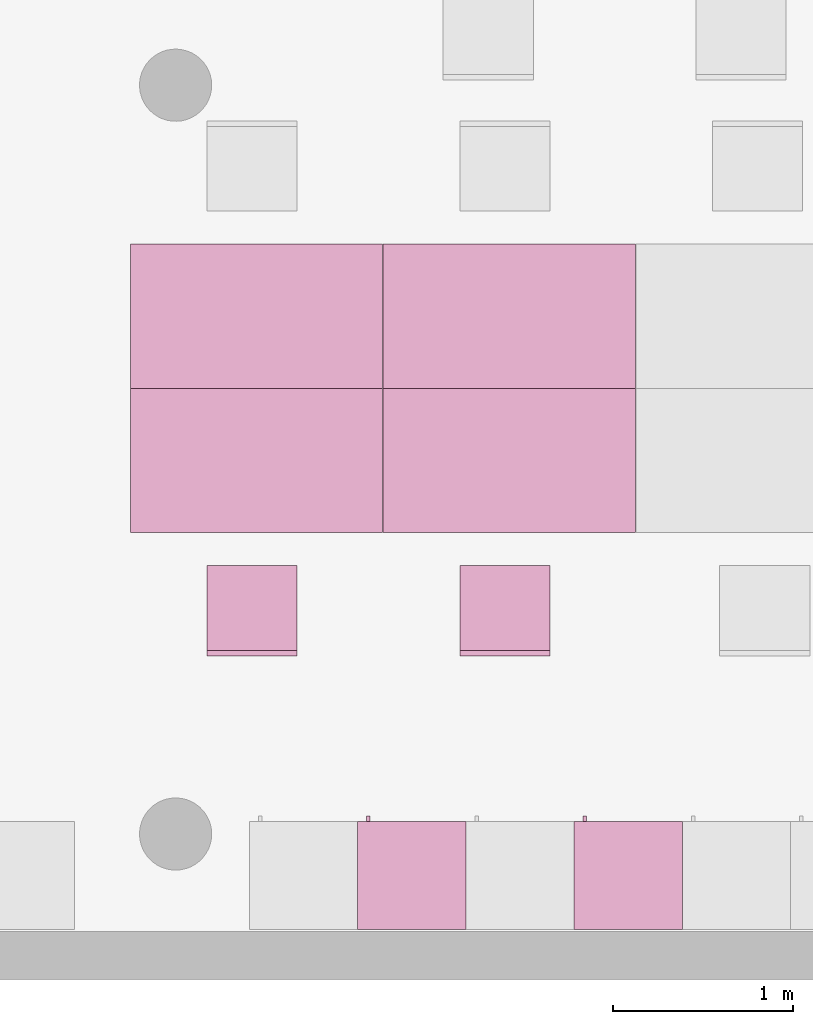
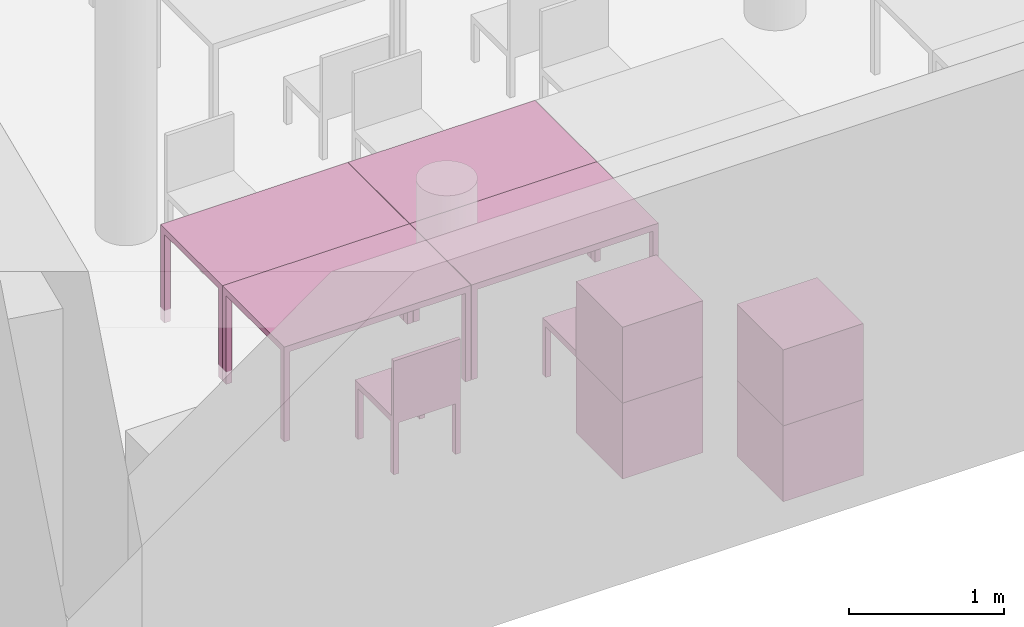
"""IFC4 building model written with IfcOpenShell, lengths in metres."""

from ifc_helpers import new_model, entity, si_unit, converted_unit, derived_unit, frame, origin, place, context, subcontext, project, spatial, faceted_brep, element, save


model = new_model("IFC4")

# Units and contexts
model_context = context("Model", 3, precision=1e-05, world=origin())
body_context = subcontext(model_context, "Body", "Model", "MODEL_VIEW")
ifc_project = project(units=[si_unit("LENGTHUNIT", "METRE"), si_unit("AREAUNIT", "SQUARE_METRE"), si_unit("VOLUMEUNIT", "CUBIC_METRE"), si_unit("MASSUNIT", "GRAM", prefix="KILO"), converted_unit("PLANEANGLEUNIT", "DEGREE", entity("IfcPlaneAngleMeasure", 0.0174532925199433), si_unit("PLANEANGLEUNIT", "RADIAN"), dimensions=[0, 0, 0, 0, 0, 0, 0]), derived_unit("THERMALTRANSMITTANCEUNIT", [(si_unit("POWERUNIT", "WATT"), 1), (si_unit("THERMODYNAMICTEMPERATUREUNIT", "KELVIN"), -1), (si_unit("LENGTHUNIT", "METRE"), -2)]), derived_unit("VOLUMETRICFLOWRATEUNIT", [(si_unit("LENGTHUNIT", "METRE"), 3), (converted_unit("TIMEUNIT", "hour", entity("IfcTimeMeasure", 3600.0), si_unit("TIMEUNIT", "SECOND"), dimensions=[0, 0, 1, 0, 0, 0, 0]), -1), (si_unit("LENGTHUNIT", "METRE"), -1)])], contexts=[model_context])

# Building, storeys
building_placement = place(None, origin())
building = spatial("IfcBuilding", under=ifc_project, at=building_placement, Name="HABITATGE PLURIFAMILIAR", CompositionType="ELEMENT")
storey_1_placement = place(building_placement, frame((0.0, 0.0, 15.28)))
storey_1 = spatial("IfcBuildingStorey", under=building, at=storey_1_placement, Name="PLANTA QUARTA", CompositionType="ELEMENT", Elevation=15.28)
storey_2_placement = place(storey_1_placement, frame((0.0, 0.0, 12.27)))
storey_2 = spatial("IfcBuildingStorey", under=storey_1, at=storey_2_placement, Name="NOU", CompositionType="PARTIAL")

# Furniture
furniture_1_placement = place(storey_2_placement, frame((400.736396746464, 15.3194598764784, -12.3699999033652)))
element("IfcFurniture", 1, at=furniture_1_placement, inside=storey_2, Name="Taula 140X80_P4", context=body_context, shape_type="Brep", body=[
    faceted_brep([(0.04375, 0.750069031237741, 0.0), (0.04375, 0.800069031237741, 0.0), (0.0, 0.800069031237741, 0.0), (0.0, 0.750069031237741, 0.0), (0.04375, 0.800069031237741, 0.7), (0.04375, 0.750069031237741, 0.7), (0.0, 0.750069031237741, 0.7), (0.0, 0.800069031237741, 0.7)], [[[0, 1, 2, 3]], [[4, 5, 6, 7]], [[1, 0, 5, 4]], [[2, 1, 4, 7]], [[3, 2, 7, 6]], [[0, 3, 6, 5]]], orient=[[False], [False], [False], [False], [False], [False]]),
    faceted_brep([(0.04375, 0.0, 0.0), (0.04375, 0.05, 0.0), (0.0, 0.05, 0.0), (0.0, 0.0, 0.0), (0.04375, 0.05, 0.7), (0.04375, 0.0, 0.7), (0.0, 0.0, 0.7), (0.0, 0.05, 0.7)], [[[0, 1, 2, 3]], [[4, 5, 6, 7]], [[1, 0, 5, 4]], [[2, 1, 4, 7]], [[3, 2, 7, 6]], [[0, 3, 6, 5]]], orient=[[False], [False], [False], [False], [False], [False]]),
    faceted_brep([(1.39732768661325, 0.0, 0.7), (1.39732768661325, 0.800069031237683, 0.7), (0.0, 0.800069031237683, 0.7), (0.0, 0.0, 0.7), (1.39732768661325, 0.800069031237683, 0.75), (1.39732768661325, 0.0, 0.75), (0.0, 0.0, 0.75), (0.0, 0.800069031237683, 0.75)], [[[0, 1, 2, 3]], [[4, 5, 6, 7]], [[1, 0, 5, 4]], [[2, 1, 4, 7]], [[3, 2, 7, 6]], [[0, 3, 6, 5]]], orient=[[False], [False], [False], [False], [False], [False]]),
    faceted_brep([(1.39732768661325, 0.750069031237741, 0.0), (1.39732768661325, 0.800069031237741, 0.0), (1.35357768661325, 0.800069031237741, 0.0), (1.35357768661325, 0.750069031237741, 0.0), (1.39732768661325, 0.800069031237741, 0.7), (1.39732768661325, 0.750069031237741, 0.7), (1.35357768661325, 0.750069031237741, 0.7), (1.35357768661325, 0.800069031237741, 0.7)], [[[0, 1, 2, 3]], [[4, 5, 6, 7]], [[1, 0, 5, 4]], [[2, 1, 4, 7]], [[3, 2, 7, 6]], [[0, 3, 6, 5]]], orient=[[False], [False], [False], [False], [False], [False]]),
    faceted_brep([(1.39732768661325, 0.0, 0.0), (1.39732768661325, 0.05, 0.0), (1.35357768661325, 0.05, 0.0), (1.35357768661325, 0.0, 0.0), (1.39732768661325, 0.05, 0.7), (1.39732768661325, 0.0, 0.7), (1.35357768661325, 0.0, 0.7), (1.35357768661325, 0.05, 0.7)], [[[0, 1, 2, 3]], [[4, 5, 6, 7]], [[1, 0, 5, 4]], [[2, 1, 4, 7]], [[3, 2, 7, 6]], [[0, 3, 6, 5]]], orient=[[False], [False], [False], [False], [False], [False]]),
])
furniture_2_placement = place(storey_2_placement, frame((402.1375758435, 15.3194598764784, -12.3699999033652)))
element("IfcFurniture", 2, at=furniture_2_placement, inside=storey_2, Name="Taula 140X80_P4", context=body_context, shape_type="Brep", body=[
    faceted_brep([(0.04375, 0.750069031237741, 0.0), (0.04375, 0.800069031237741, 0.0), (0.0, 0.800069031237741, 0.0), (0.0, 0.750069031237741, 0.0), (0.04375, 0.800069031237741, 0.7), (0.04375, 0.750069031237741, 0.7), (0.0, 0.750069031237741, 0.7), (0.0, 0.800069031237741, 0.7)], [[[0, 1, 2, 3]], [[4, 5, 6, 7]], [[1, 0, 5, 4]], [[2, 1, 4, 7]], [[3, 2, 7, 6]], [[0, 3, 6, 5]]], orient=[[False], [False], [False], [False], [False], [False]]),
    faceted_brep([(0.04375, 0.0, 0.0), (0.04375, 0.05, 0.0), (0.0, 0.05, 0.0), (0.0, 0.0, 0.0), (0.04375, 0.05, 0.7), (0.04375, 0.0, 0.7), (0.0, 0.0, 0.7), (0.0, 0.05, 0.7)], [[[0, 1, 2, 3]], [[4, 5, 6, 7]], [[1, 0, 5, 4]], [[2, 1, 4, 7]], [[3, 2, 7, 6]], [[0, 3, 6, 5]]], orient=[[False], [False], [False], [False], [False], [False]]),
    faceted_brep([(1.39732768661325, 0.0, 0.7), (1.39732768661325, 0.800069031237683, 0.7), (0.0, 0.800069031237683, 0.7), (0.0, 0.0, 0.7), (1.39732768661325, 0.800069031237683, 0.75), (1.39732768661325, 0.0, 0.75), (0.0, 0.0, 0.75), (0.0, 0.800069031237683, 0.75)], [[[0, 1, 2, 3]], [[4, 5, 6, 7]], [[1, 0, 5, 4]], [[2, 1, 4, 7]], [[3, 2, 7, 6]], [[0, 3, 6, 5]]], orient=[[False], [False], [False], [False], [False], [False]]),
    faceted_brep([(1.39732768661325, 0.750069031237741, 0.0), (1.39732768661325, 0.800069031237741, 0.0), (1.35357768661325, 0.800069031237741, 0.0), (1.35357768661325, 0.750069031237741, 0.0), (1.39732768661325, 0.800069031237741, 0.7), (1.39732768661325, 0.750069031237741, 0.7), (1.35357768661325, 0.750069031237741, 0.7), (1.35357768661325, 0.800069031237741, 0.7)], [[[0, 1, 2, 3]], [[4, 5, 6, 7]], [[1, 0, 5, 4]], [[2, 1, 4, 7]], [[3, 2, 7, 6]], [[0, 3, 6, 5]]], orient=[[False], [False], [False], [False], [False], [False]]),
    faceted_brep([(1.39732768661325, 0.0, 0.0), (1.39732768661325, 0.05, 0.0), (1.35357768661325, 0.05, 0.0), (1.35357768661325, 0.0, 0.0), (1.39732768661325, 0.05, 0.7), (1.39732768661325, 0.0, 0.7), (1.35357768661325, 0.0, 0.7), (1.35357768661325, 0.05, 0.7)], [[[0, 1, 2, 3]], [[4, 5, 6, 7]], [[1, 0, 5, 4]], [[2, 1, 4, 7]], [[3, 2, 7, 6]], [[0, 3, 6, 5]]], orient=[[False], [False], [False], [False], [False], [False]]),
])
furniture_3_placement = place(storey_2_placement, frame((402.1375758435, 16.1195289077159, -12.3699999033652)))
element("IfcFurniture", 3, at=furniture_3_placement, inside=storey_2, Name="Taula 140X80_P4", context=body_context, shape_type="Brep", body=[
    faceted_brep([(0.04375, 0.05, 0.0), (0.0, 0.05, 0.0), (0.0, 0.0, 0.0), (0.04375, 0.0, 0.0), (0.04375, 0.0, 0.7), (0.0, 0.0, 0.7), (0.0, 0.05, 0.7), (0.04375, 0.05, 0.7)], [[[0, 1, 2, 3]], [[4, 5, 6, 7]], [[3, 4, 7, 0]], [[2, 5, 4, 3]], [[1, 6, 5, 2]], [[0, 7, 6, 1]]], orient=[[False], [False], [False], [False], [False], [False]]),
    faceted_brep([(0.04375, 0.800069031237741, 0.0), (0.0, 0.800069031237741, 0.0), (0.0, 0.750069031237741, 0.0), (0.04375, 0.750069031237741, 0.0), (0.04375, 0.750069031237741, 0.7), (0.0, 0.750069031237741, 0.7), (0.0, 0.800069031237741, 0.7), (0.04375, 0.800069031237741, 0.7)], [[[0, 1, 2, 3]], [[4, 5, 6, 7]], [[3, 4, 7, 0]], [[2, 5, 4, 3]], [[1, 6, 5, 2]], [[0, 7, 6, 1]]], orient=[[False], [False], [False], [False], [False], [False]]),
    faceted_brep([(1.39732768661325, 0.800069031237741, 0.7), (0.0, 0.800069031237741, 0.7), (0.0, 0.0, 0.7), (1.39732768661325, 0.0, 0.7), (1.39732768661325, 0.0, 0.75), (0.0, 0.0, 0.75), (0.0, 0.800069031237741, 0.75), (1.39732768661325, 0.800069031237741, 0.75)], [[[0, 1, 2, 3]], [[4, 5, 6, 7]], [[3, 4, 7, 0]], [[2, 5, 4, 3]], [[1, 6, 5, 2]], [[0, 7, 6, 1]]], orient=[[False], [False], [False], [False], [False], [False]]),
    faceted_brep([(1.39732768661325, 0.05, 0.0), (1.35357768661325, 0.05, 0.0), (1.35357768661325, 0.0, 0.0), (1.39732768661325, 0.0, 0.0), (1.39732768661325, 0.0, 0.7), (1.35357768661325, 0.0, 0.7), (1.35357768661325, 0.05, 0.7), (1.39732768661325, 0.05, 0.7)], [[[0, 1, 2, 3]], [[4, 5, 6, 7]], [[3, 4, 7, 0]], [[2, 5, 4, 3]], [[1, 6, 5, 2]], [[0, 7, 6, 1]]], orient=[[False], [False], [False], [False], [False], [False]]),
    faceted_brep([(1.39732768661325, 0.800069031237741, 0.0), (1.35357768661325, 0.800069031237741, 0.0), (1.35357768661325, 0.750069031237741, 0.0), (1.39732768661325, 0.750069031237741, 0.0), (1.39732768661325, 0.750069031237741, 0.7), (1.35357768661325, 0.750069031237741, 0.7), (1.35357768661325, 0.800069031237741, 0.7), (1.39732768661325, 0.800069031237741, 0.7)], [[[0, 1, 2, 3]], [[4, 5, 6, 7]], [[3, 4, 7, 0]], [[2, 5, 4, 3]], [[1, 6, 5, 2]], [[0, 7, 6, 1]]], orient=[[False], [False], [False], [False], [False], [False]]),
])
furniture_4_placement = place(storey_2_placement, frame((400.736396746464, 16.1195289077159, -12.3699999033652)))
element("IfcFurniture", 4, at=furniture_4_placement, inside=storey_2, Name="Taula 140X80_P4", context=body_context, shape_type="Brep", body=[
    faceted_brep([(0.04375, 0.05, 0.0), (0.0, 0.05, 0.0), (0.0, 0.0, 0.0), (0.04375, 0.0, 0.0), (0.04375, 0.0, 0.7), (0.0, 0.0, 0.7), (0.0, 0.05, 0.7), (0.04375, 0.05, 0.7)], [[[0, 1, 2, 3]], [[4, 5, 6, 7]], [[3, 4, 7, 0]], [[2, 5, 4, 3]], [[1, 6, 5, 2]], [[0, 7, 6, 1]]], orient=[[False], [False], [False], [False], [False], [False]]),
    faceted_brep([(0.04375, 0.800069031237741, 0.0), (0.0, 0.800069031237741, 0.0), (0.0, 0.750069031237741, 0.0), (0.04375, 0.750069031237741, 0.0), (0.04375, 0.750069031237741, 0.7), (0.0, 0.750069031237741, 0.7), (0.0, 0.800069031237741, 0.7), (0.04375, 0.800069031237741, 0.7)], [[[0, 1, 2, 3]], [[4, 5, 6, 7]], [[3, 4, 7, 0]], [[2, 5, 4, 3]], [[1, 6, 5, 2]], [[0, 7, 6, 1]]], orient=[[False], [False], [False], [False], [False], [False]]),
    faceted_brep([(1.39732768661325, 0.800069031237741, 0.7), (0.0, 0.800069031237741, 0.7), (0.0, 0.0, 0.7), (1.39732768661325, 0.0, 0.7), (1.39732768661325, 0.0, 0.75), (0.0, 0.0, 0.75), (0.0, 0.800069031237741, 0.75), (1.39732768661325, 0.800069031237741, 0.75)], [[[0, 1, 2, 3]], [[4, 5, 6, 7]], [[3, 4, 7, 0]], [[2, 5, 4, 3]], [[1, 6, 5, 2]], [[0, 7, 6, 1]]], orient=[[False], [False], [False], [False], [False], [False]]),
    faceted_brep([(1.39732768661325, 0.05, 0.0), (1.35357768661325, 0.05, 0.0), (1.35357768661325, 0.0, 0.0), (1.39732768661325, 0.0, 0.0), (1.39732768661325, 0.0, 0.7), (1.35357768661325, 0.0, 0.7), (1.35357768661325, 0.05, 0.7), (1.39732768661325, 0.05, 0.7)], [[[0, 1, 2, 3]], [[4, 5, 6, 7]], [[3, 4, 7, 0]], [[2, 5, 4, 3]], [[1, 6, 5, 2]], [[0, 7, 6, 1]]], orient=[[False], [False], [False], [False], [False], [False]]),
    faceted_brep([(1.39732768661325, 0.800069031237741, 0.0), (1.35357768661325, 0.800069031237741, 0.0), (1.35357768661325, 0.750069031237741, 0.0), (1.39732768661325, 0.750069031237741, 0.0), (1.39732768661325, 0.750069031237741, 0.7), (1.35357768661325, 0.750069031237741, 0.7), (1.35357768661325, 0.800069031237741, 0.7), (1.39732768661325, 0.800069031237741, 0.7)], [[[0, 1, 2, 3]], [[4, 5, 6, 7]], [[3, 4, 7, 0]], [[2, 5, 4, 3]], [[1, 6, 5, 2]], [[0, 7, 6, 1]]], orient=[[False], [False], [False], [False], [False], [False]]),
])
furniture_5_placement = place(storey_2_placement, frame((403.19527037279, 13.1194598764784, -12.37)))
element("IfcFurniture", 5, at=furniture_5_placement, inside=storey_2, Name="Armai 60x60x60_P4", context=body_context, shape_type="Brep", body=[
    faceted_brep([(0.0, 0.6, 0.02), (0.0, 0.6, 0.0), (0.6, 0.6, 0.0), (0.6, 0.6, 0.02), (0.6, 0.0, 0.0), (0.6, 0.0, 0.02), (0.0, 0.0, 0.0), (0.0, 0.0, 0.02)], [[[0, 1, 2, 3]], [[3, 2, 4, 5]], [[5, 4, 6, 7]], [[7, 6, 1, 0]], [[0, 3, 5, 7]], [[1, 6, 4, 2]]], orient=[[False], [False], [False], [False], [False], [False]]),
    faceted_brep([(0.580000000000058, 0.0, 0.58), (0.580000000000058, 0.0200000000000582, 0.58), (0.580000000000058, 0.0200000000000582, 0.02), (0.580000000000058, 0.0, 0.02), (0.0200000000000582, 0.0200000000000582, 0.02), (0.0200000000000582, 0.0, 0.02), (0.0200000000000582, 0.0200000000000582, 0.58), (0.0200000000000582, 0.0, 0.58)], [[[0, 1, 2, 3]], [[3, 2, 4, 5]], [[5, 4, 6, 7]], [[7, 6, 1, 0]], [[0, 3, 5, 7]], [[1, 6, 4, 2]]], orient=[[False], [False], [False], [False], [False], [False]]),
    faceted_brep([(0.0200000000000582, 0.6, 0.58), (0.0, 0.6, 0.58), (0.0, 0.6, 0.02), (0.0200000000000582, 0.6, 0.02), (0.0, 0.0, 0.02), (0.0200000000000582, 0.0, 0.02), (0.0, 0.0, 0.58), (0.0200000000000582, 0.0, 0.58)], [[[0, 1, 2, 3]], [[3, 2, 4, 5]], [[5, 4, 6, 7]], [[7, 6, 1, 0]], [[0, 3, 5, 7]], [[1, 6, 4, 2]]], orient=[[False], [False], [False], [False], [False], [False]]),
    faceted_brep([(0.0, 0.58, 0.58), (0.0, 0.6, 0.58), (0.0, 0.6, 0.02), (0.0, 0.58, 0.02), (0.02, 0.6, 0.02), (0.02, 0.58, 0.02), (0.02, 0.6, 0.58), (0.02, 0.58, 0.58)], [[[0, 1, 2, 3]], [[3, 2, 4, 5]], [[5, 4, 6, 7]], [[7, 6, 1, 0]], [[0, 3, 5, 7]], [[1, 6, 4, 2]]], orient=[[False], [False], [False], [False], [False], [False]]),
    faceted_brep([(0.6, 0.6, 0.58), (0.58, 0.6, 0.58), (0.58, 0.6, 0.02), (0.6, 0.6, 0.02), (0.58, 0.0, 0.02), (0.6, 0.0, 0.02), (0.58, 0.0, 0.58), (0.6, 0.0, 0.58)], [[[0, 1, 2, 3]], [[3, 2, 4, 5]], [[5, 4, 6, 7]], [[7, 6, 1, 0]], [[0, 3, 5, 7]], [[1, 6, 4, 2]]], orient=[[False], [False], [False], [False], [False], [False]]),
    faceted_brep([(0.0, 0.600000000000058, 0.6), (0.0, 0.600000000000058, 0.58), (0.600000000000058, 0.600000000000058, 0.58), (0.600000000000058, 0.600000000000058, 0.6), (0.600000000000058, 0.0, 0.58), (0.600000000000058, 0.0, 0.6), (0.0, 0.0, 0.58), (0.0, 0.0, 0.6)], [[[0, 1, 2, 3]], [[3, 2, 4, 5]], [[5, 4, 6, 7]], [[7, 6, 1, 0]], [[0, 3, 5, 7]], [[1, 6, 4, 2]]], orient=[[False], [False], [False], [False], [False], [False]]),
    faceted_brep([(0.580000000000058, 0.580000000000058, 0.58), (0.580000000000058, 0.600000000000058, 0.58), (0.580000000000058, 0.600000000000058, 0.02), (0.580000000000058, 0.580000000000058, 0.02), (0.02, 0.600000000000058, 0.02), (0.02, 0.580000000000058, 0.02), (0.02, 0.600000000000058, 0.58), (0.02, 0.580000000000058, 0.58)], [[[0, 1, 2, 3]], [[3, 2, 4, 5]], [[5, 4, 6, 7]], [[7, 6, 1, 0]], [[0, 3, 5, 7]], [[1, 6, 4, 2]]], orient=[[False], [False], [False], [False], [False], [False]]),
    faceted_brep([(0.0700000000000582, 0.600000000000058, 0.358064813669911), (0.0700000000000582, 0.630000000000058, 0.358064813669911), (0.0700000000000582, 0.630000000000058, 0.258064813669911), (0.0700000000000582, 0.600000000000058, 0.258064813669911), (0.0500000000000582, 0.630000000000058, 0.258064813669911), (0.0500000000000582, 0.600000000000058, 0.258064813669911), (0.0500000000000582, 0.630000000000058, 0.358064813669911), (0.0500000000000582, 0.600000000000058, 0.358064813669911)], [[[0, 1, 2, 3]], [[3, 2, 4, 5]], [[5, 4, 6, 7]], [[7, 6, 1, 0]], [[0, 3, 5, 7]], [[1, 6, 4, 2]]], orient=[[False], [False], [False], [False], [False], [False]]),
])
furniture_6_placement = place(storey_2_placement, frame((403.19527037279, 13.1194598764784, -11.77)))
element("IfcFurniture", 6, at=furniture_6_placement, inside=storey_2, Name="Armai 60x60x60_P4", context=body_context, shape_type="Brep", body=[
    faceted_brep([(0.0, 0.6, 0.02), (0.0, 0.6, 0.0), (0.6, 0.6, 0.0), (0.6, 0.6, 0.02), (0.6, 0.0, 0.0), (0.6, 0.0, 0.02), (0.0, 0.0, 0.0), (0.0, 0.0, 0.02)], [[[0, 1, 2, 3]], [[3, 2, 4, 5]], [[5, 4, 6, 7]], [[7, 6, 1, 0]], [[0, 3, 5, 7]], [[1, 6, 4, 2]]], orient=[[False], [False], [False], [False], [False], [False]]),
    faceted_brep([(0.580000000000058, 0.0, 0.58), (0.580000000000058, 0.0200000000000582, 0.58), (0.580000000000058, 0.0200000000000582, 0.02), (0.580000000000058, 0.0, 0.02), (0.0200000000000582, 0.0200000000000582, 0.02), (0.0200000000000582, 0.0, 0.02), (0.0200000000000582, 0.0200000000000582, 0.58), (0.0200000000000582, 0.0, 0.58)], [[[0, 1, 2, 3]], [[3, 2, 4, 5]], [[5, 4, 6, 7]], [[7, 6, 1, 0]], [[0, 3, 5, 7]], [[1, 6, 4, 2]]], orient=[[False], [False], [False], [False], [False], [False]]),
    faceted_brep([(0.0200000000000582, 0.6, 0.58), (0.0, 0.6, 0.58), (0.0, 0.6, 0.02), (0.0200000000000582, 0.6, 0.02), (0.0, 0.0, 0.02), (0.0200000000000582, 0.0, 0.02), (0.0, 0.0, 0.58), (0.0200000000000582, 0.0, 0.58)], [[[0, 1, 2, 3]], [[3, 2, 4, 5]], [[5, 4, 6, 7]], [[7, 6, 1, 0]], [[0, 3, 5, 7]], [[1, 6, 4, 2]]], orient=[[False], [False], [False], [False], [False], [False]]),
    faceted_brep([(0.0, 0.58, 0.58), (0.0, 0.6, 0.58), (0.0, 0.6, 0.02), (0.0, 0.58, 0.02), (0.02, 0.6, 0.02), (0.02, 0.58, 0.02), (0.02, 0.6, 0.58), (0.02, 0.58, 0.58)], [[[0, 1, 2, 3]], [[3, 2, 4, 5]], [[5, 4, 6, 7]], [[7, 6, 1, 0]], [[0, 3, 5, 7]], [[1, 6, 4, 2]]], orient=[[False], [False], [False], [False], [False], [False]]),
    faceted_brep([(0.6, 0.6, 0.58), (0.58, 0.6, 0.58), (0.58, 0.6, 0.02), (0.6, 0.6, 0.02), (0.58, 0.0, 0.02), (0.6, 0.0, 0.02), (0.58, 0.0, 0.58), (0.6, 0.0, 0.58)], [[[0, 1, 2, 3]], [[3, 2, 4, 5]], [[5, 4, 6, 7]], [[7, 6, 1, 0]], [[0, 3, 5, 7]], [[1, 6, 4, 2]]], orient=[[False], [False], [False], [False], [False], [False]]),
    faceted_brep([(0.0, 0.600000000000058, 0.6), (0.0, 0.600000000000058, 0.58), (0.600000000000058, 0.600000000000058, 0.58), (0.600000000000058, 0.600000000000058, 0.6), (0.600000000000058, 0.0, 0.58), (0.600000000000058, 0.0, 0.6), (0.0, 0.0, 0.58), (0.0, 0.0, 0.6)], [[[0, 1, 2, 3]], [[3, 2, 4, 5]], [[5, 4, 6, 7]], [[7, 6, 1, 0]], [[0, 3, 5, 7]], [[1, 6, 4, 2]]], orient=[[False], [False], [False], [False], [False], [False]]),
    faceted_brep([(0.580000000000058, 0.580000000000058, 0.58), (0.580000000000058, 0.600000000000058, 0.58), (0.580000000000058, 0.600000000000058, 0.02), (0.580000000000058, 0.580000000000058, 0.02), (0.02, 0.600000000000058, 0.02), (0.02, 0.580000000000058, 0.02), (0.02, 0.600000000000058, 0.58), (0.02, 0.580000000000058, 0.58)], [[[0, 1, 2, 3]], [[3, 2, 4, 5]], [[5, 4, 6, 7]], [[7, 6, 1, 0]], [[0, 3, 5, 7]], [[1, 6, 4, 2]]], orient=[[False], [False], [False], [False], [False], [False]]),
    faceted_brep([(0.0700000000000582, 0.600000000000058, 0.358064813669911), (0.0700000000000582, 0.630000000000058, 0.358064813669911), (0.0700000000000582, 0.630000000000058, 0.258064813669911), (0.0700000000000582, 0.600000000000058, 0.258064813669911), (0.0500000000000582, 0.630000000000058, 0.258064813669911), (0.0500000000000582, 0.600000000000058, 0.258064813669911), (0.0500000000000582, 0.630000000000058, 0.358064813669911), (0.0500000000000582, 0.600000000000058, 0.358064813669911)], [[[0, 1, 2, 3]], [[3, 2, 4, 5]], [[5, 4, 6, 7]], [[7, 6, 1, 0]], [[0, 3, 5, 7]], [[1, 6, 4, 2]]], orient=[[False], [False], [False], [False], [False], [False]]),
])
furniture_7_placement = place(storey_2_placement, frame((401.99527037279, 13.1194598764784, -11.77)))
element("IfcFurniture", 7, at=furniture_7_placement, inside=storey_2, Name="Armai 60x60x60_P4", context=body_context, shape_type="Brep", body=[
    faceted_brep([(0.0, 0.6, 0.02), (0.0, 0.6, 0.0), (0.6, 0.6, 0.0), (0.6, 0.6, 0.02), (0.6, 0.0, 0.0), (0.6, 0.0, 0.02), (0.0, 0.0, 0.0), (0.0, 0.0, 0.02)], [[[0, 1, 2, 3]], [[3, 2, 4, 5]], [[5, 4, 6, 7]], [[7, 6, 1, 0]], [[0, 3, 5, 7]], [[1, 6, 4, 2]]], orient=[[False], [False], [False], [False], [False], [False]]),
    faceted_brep([(0.580000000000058, 0.0, 0.58), (0.580000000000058, 0.0200000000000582, 0.58), (0.580000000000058, 0.0200000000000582, 0.02), (0.580000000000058, 0.0, 0.02), (0.0200000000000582, 0.0200000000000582, 0.02), (0.0200000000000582, 0.0, 0.02), (0.0200000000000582, 0.0200000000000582, 0.58), (0.0200000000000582, 0.0, 0.58)], [[[0, 1, 2, 3]], [[3, 2, 4, 5]], [[5, 4, 6, 7]], [[7, 6, 1, 0]], [[0, 3, 5, 7]], [[1, 6, 4, 2]]], orient=[[False], [False], [False], [False], [False], [False]]),
    faceted_brep([(0.0200000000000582, 0.6, 0.58), (0.0, 0.6, 0.58), (0.0, 0.6, 0.02), (0.0200000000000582, 0.6, 0.02), (0.0, 0.0, 0.02), (0.0200000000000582, 0.0, 0.02), (0.0, 0.0, 0.58), (0.0200000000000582, 0.0, 0.58)], [[[0, 1, 2, 3]], [[3, 2, 4, 5]], [[5, 4, 6, 7]], [[7, 6, 1, 0]], [[0, 3, 5, 7]], [[1, 6, 4, 2]]], orient=[[False], [False], [False], [False], [False], [False]]),
    faceted_brep([(0.0, 0.58, 0.58), (0.0, 0.6, 0.58), (0.0, 0.6, 0.02), (0.0, 0.58, 0.02), (0.02, 0.6, 0.02), (0.02, 0.58, 0.02), (0.02, 0.6, 0.58), (0.02, 0.58, 0.58)], [[[0, 1, 2, 3]], [[3, 2, 4, 5]], [[5, 4, 6, 7]], [[7, 6, 1, 0]], [[0, 3, 5, 7]], [[1, 6, 4, 2]]], orient=[[False], [False], [False], [False], [False], [False]]),
    faceted_brep([(0.6, 0.6, 0.58), (0.58, 0.6, 0.58), (0.58, 0.6, 0.02), (0.6, 0.6, 0.02), (0.58, 0.0, 0.02), (0.6, 0.0, 0.02), (0.58, 0.0, 0.58), (0.6, 0.0, 0.58)], [[[0, 1, 2, 3]], [[3, 2, 4, 5]], [[5, 4, 6, 7]], [[7, 6, 1, 0]], [[0, 3, 5, 7]], [[1, 6, 4, 2]]], orient=[[False], [False], [False], [False], [False], [False]]),
    faceted_brep([(0.0, 0.600000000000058, 0.6), (0.0, 0.600000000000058, 0.58), (0.600000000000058, 0.600000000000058, 0.58), (0.600000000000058, 0.600000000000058, 0.6), (0.600000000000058, 0.0, 0.58), (0.600000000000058, 0.0, 0.6), (0.0, 0.0, 0.58), (0.0, 0.0, 0.6)], [[[0, 1, 2, 3]], [[3, 2, 4, 5]], [[5, 4, 6, 7]], [[7, 6, 1, 0]], [[0, 3, 5, 7]], [[1, 6, 4, 2]]], orient=[[False], [False], [False], [False], [False], [False]]),
    faceted_brep([(0.580000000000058, 0.580000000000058, 0.58), (0.580000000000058, 0.600000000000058, 0.58), (0.580000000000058, 0.600000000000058, 0.02), (0.580000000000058, 0.580000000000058, 0.02), (0.02, 0.600000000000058, 0.02), (0.02, 0.580000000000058, 0.02), (0.02, 0.600000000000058, 0.58), (0.02, 0.580000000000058, 0.58)], [[[0, 1, 2, 3]], [[3, 2, 4, 5]], [[5, 4, 6, 7]], [[7, 6, 1, 0]], [[0, 3, 5, 7]], [[1, 6, 4, 2]]], orient=[[False], [False], [False], [False], [False], [False]]),
    faceted_brep([(0.0700000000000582, 0.600000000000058, 0.358064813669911), (0.0700000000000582, 0.630000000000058, 0.358064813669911), (0.0700000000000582, 0.630000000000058, 0.258064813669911), (0.0700000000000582, 0.600000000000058, 0.258064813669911), (0.0500000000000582, 0.630000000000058, 0.258064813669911), (0.0500000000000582, 0.600000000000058, 0.258064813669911), (0.0500000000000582, 0.630000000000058, 0.358064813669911), (0.0500000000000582, 0.600000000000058, 0.358064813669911)], [[[0, 1, 2, 3]], [[3, 2, 4, 5]], [[5, 4, 6, 7]], [[7, 6, 1, 0]], [[0, 3, 5, 7]], [[1, 6, 4, 2]]], orient=[[False], [False], [False], [False], [False], [False]]),
])
furniture_8_placement = place(storey_2_placement, frame((401.99527037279, 13.1194598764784, -11.17)))
element("IfcFurniture", 8, at=furniture_8_placement, inside=storey_2, Name="Armai 60x60x60_P4", context=body_context, shape_type="Brep", body=[
    faceted_brep([(0.0, 0.6, 0.02), (0.0, 0.6, 0.0), (0.6, 0.6, 0.0), (0.6, 0.6, 0.02), (0.6, 0.0, 0.0), (0.6, 0.0, 0.02), (0.0, 0.0, 0.0), (0.0, 0.0, 0.02)], [[[0, 1, 2, 3]], [[3, 2, 4, 5]], [[5, 4, 6, 7]], [[7, 6, 1, 0]], [[0, 3, 5, 7]], [[1, 6, 4, 2]]], orient=[[False], [False], [False], [False], [False], [False]]),
    faceted_brep([(0.580000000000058, 0.0, 0.58), (0.580000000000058, 0.0200000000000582, 0.58), (0.580000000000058, 0.0200000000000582, 0.02), (0.580000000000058, 0.0, 0.02), (0.0200000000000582, 0.0200000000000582, 0.02), (0.0200000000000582, 0.0, 0.02), (0.0200000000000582, 0.0200000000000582, 0.58), (0.0200000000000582, 0.0, 0.58)], [[[0, 1, 2, 3]], [[3, 2, 4, 5]], [[5, 4, 6, 7]], [[7, 6, 1, 0]], [[0, 3, 5, 7]], [[1, 6, 4, 2]]], orient=[[False], [False], [False], [False], [False], [False]]),
    faceted_brep([(0.0200000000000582, 0.6, 0.58), (0.0, 0.6, 0.58), (0.0, 0.6, 0.02), (0.0200000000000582, 0.6, 0.02), (0.0, 0.0, 0.02), (0.0200000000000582, 0.0, 0.02), (0.0, 0.0, 0.58), (0.0200000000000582, 0.0, 0.58)], [[[0, 1, 2, 3]], [[3, 2, 4, 5]], [[5, 4, 6, 7]], [[7, 6, 1, 0]], [[0, 3, 5, 7]], [[1, 6, 4, 2]]], orient=[[False], [False], [False], [False], [False], [False]]),
    faceted_brep([(0.0, 0.58, 0.58), (0.0, 0.6, 0.58), (0.0, 0.6, 0.02), (0.0, 0.58, 0.02), (0.02, 0.6, 0.02), (0.02, 0.58, 0.02), (0.02, 0.6, 0.58), (0.02, 0.58, 0.58)], [[[0, 1, 2, 3]], [[3, 2, 4, 5]], [[5, 4, 6, 7]], [[7, 6, 1, 0]], [[0, 3, 5, 7]], [[1, 6, 4, 2]]], orient=[[False], [False], [False], [False], [False], [False]]),
    faceted_brep([(0.6, 0.6, 0.58), (0.58, 0.6, 0.58), (0.58, 0.6, 0.02), (0.6, 0.6, 0.02), (0.58, 0.0, 0.02), (0.6, 0.0, 0.02), (0.58, 0.0, 0.58), (0.6, 0.0, 0.58)], [[[0, 1, 2, 3]], [[3, 2, 4, 5]], [[5, 4, 6, 7]], [[7, 6, 1, 0]], [[0, 3, 5, 7]], [[1, 6, 4, 2]]], orient=[[False], [False], [False], [False], [False], [False]]),
    faceted_brep([(0.0, 0.600000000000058, 0.6), (0.0, 0.600000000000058, 0.58), (0.600000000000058, 0.600000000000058, 0.58), (0.600000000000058, 0.600000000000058, 0.6), (0.600000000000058, 0.0, 0.58), (0.600000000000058, 0.0, 0.6), (0.0, 0.0, 0.58), (0.0, 0.0, 0.6)], [[[0, 1, 2, 3]], [[3, 2, 4, 5]], [[5, 4, 6, 7]], [[7, 6, 1, 0]], [[0, 3, 5, 7]], [[1, 6, 4, 2]]], orient=[[False], [False], [False], [False], [False], [False]]),
    faceted_brep([(0.580000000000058, 0.580000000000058, 0.58), (0.580000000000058, 0.600000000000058, 0.58), (0.580000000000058, 0.600000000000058, 0.02), (0.580000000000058, 0.580000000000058, 0.02), (0.02, 0.600000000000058, 0.02), (0.02, 0.580000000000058, 0.02), (0.02, 0.600000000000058, 0.58), (0.02, 0.580000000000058, 0.58)], [[[0, 1, 2, 3]], [[3, 2, 4, 5]], [[5, 4, 6, 7]], [[7, 6, 1, 0]], [[0, 3, 5, 7]], [[1, 6, 4, 2]]], orient=[[False], [False], [False], [False], [False], [False]]),
    faceted_brep([(0.0700000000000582, 0.600000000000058, 0.358064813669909), (0.0700000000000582, 0.630000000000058, 0.358064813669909), (0.0700000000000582, 0.630000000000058, 0.258064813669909), (0.0700000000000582, 0.600000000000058, 0.258064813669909), (0.0500000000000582, 0.630000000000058, 0.258064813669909), (0.0500000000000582, 0.600000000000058, 0.258064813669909), (0.0500000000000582, 0.630000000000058, 0.358064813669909), (0.0500000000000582, 0.600000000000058, 0.358064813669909)], [[[0, 1, 2, 3]], [[3, 2, 4, 5]], [[5, 4, 6, 7]], [[7, 6, 1, 0]], [[0, 3, 5, 7]], [[1, 6, 4, 2]]], orient=[[False], [False], [False], [False], [False], [False]]),
])
furniture_9_placement = place(storey_2_placement, frame((401.161087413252, 14.6372469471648, -12.3653305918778)))
element("IfcFurniture", 9, at=furniture_9_placement, inside=storey_2, Name="Cadira d'Oficina_P4", context=body_context, shape_type="Brep", body=[
    faceted_brep([(0.5, 0.5, 0.399999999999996), (0.0, 0.500000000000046, 0.399999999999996), (0.0, 0.0, 0.399999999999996), (0.5, 0.0, 0.399999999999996), (0.5, 0.0, 0.449999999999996), (0.0, 0.0, 0.449999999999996), (0.0, 0.500000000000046, 0.449999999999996), (0.5, 0.5, 0.449999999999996)], [[[0, 1, 2, 3]], [[4, 5, 6, 7]], [[3, 4, 7, 0]], [[2, 5, 4, 3]], [[1, 6, 5, 2]], [[0, 7, 6, 1]]], orient=[[False], [False], [False], [False], [False], [False]]),
    faceted_brep([(0.0, 0.0400000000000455, 0.0), (0.0, 0.0, 0.0), (0.04, 0.0, 0.0), (0.04, 0.0400000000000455, 0.0), (0.04, 0.0400000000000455, 0.4), (0.04, 0.0, 0.4), (0.0, 0.0, 0.4), (0.0, 0.0400000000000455, 0.4)], [[[0, 1, 2, 3]], [[4, 5, 6, 7]], [[3, 4, 7, 0]], [[2, 5, 4, 3]], [[1, 6, 5, 2]], [[0, 7, 6, 1]]], orient=[[False], [False], [False], [False], [False], [False]]),
    faceted_brep([(0.0, 0.500000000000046, 0.0), (0.0, 0.460000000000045, 0.0), (0.04, 0.460000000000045, 0.0), (0.04, 0.500000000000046, 0.0), (0.04, 0.500000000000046, 0.4), (0.04, 0.460000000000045, 0.4), (0.0, 0.460000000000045, 0.4), (0.0, 0.500000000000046, 0.4)], [[[0, 1, 2, 3]], [[4, 5, 6, 7]], [[3, 4, 7, 0]], [[2, 5, 4, 3]], [[1, 6, 5, 2]], [[0, 7, 6, 1]]], orient=[[False], [False], [False], [False], [False], [False]]),
    faceted_brep([(0.46, 0.04, 0.0), (0.46, 0.0, 0.0), (0.5, 0.0, 0.0), (0.5, 0.04, 0.0), (0.5, 0.04, 0.4), (0.5, 0.0, 0.4), (0.46, 0.0, 0.4), (0.46, 0.04, 0.4)], [[[0, 1, 2, 3]], [[4, 5, 6, 7]], [[3, 4, 7, 0]], [[2, 5, 4, 3]], [[1, 6, 5, 2]], [[0, 7, 6, 1]]], orient=[[False], [False], [False], [False], [False], [False]]),
    faceted_brep([(0.46, 0.5, 0.0), (0.46, 0.46, 0.0), (0.5, 0.46, 0.0), (0.5, 0.5, 0.0), (0.5, 0.5, 0.4), (0.5, 0.46, 0.4), (0.46, 0.46, 0.4), (0.46, 0.5, 0.4)], [[[0, 1, 2, 3]], [[4, 5, 6, 7]], [[3, 4, 7, 0]], [[2, 5, 4, 3]], [[1, 6, 5, 2]], [[0, 7, 6, 1]]], orient=[[False], [False], [False], [False], [False], [False]]),
    faceted_brep([(0.0, 0.0300000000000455, 0.45), (0.0, 0.0, 0.45), (0.5, 0.0, 0.45), (0.5, 0.03, 0.45), (0.5, 0.03, 0.9), (0.5, 0.0, 0.9), (0.0, 0.0, 0.9), (0.0, 0.0300000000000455, 0.9)], [[[0, 1, 2, 3]], [[4, 5, 6, 7]], [[3, 4, 7, 0]], [[2, 5, 4, 3]], [[1, 6, 5, 2]], [[0, 7, 6, 1]]], orient=[[False], [False], [False], [False], [False], [False]]),
])
furniture_10_placement = place(storey_2_placement, frame((402.562266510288, 14.6372469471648, -12.3653305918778)))
element("IfcFurniture", 10, at=furniture_10_placement, inside=storey_2, Name="Cadira d'Oficina_P4", context=body_context, shape_type="Brep", body=[
    faceted_brep([(0.5, 0.5, 0.399999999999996), (0.0, 0.500000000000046, 0.399999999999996), (0.0, 0.0, 0.399999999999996), (0.5, 0.0, 0.399999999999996), (0.5, 0.0, 0.449999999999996), (0.0, 0.0, 0.449999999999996), (0.0, 0.500000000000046, 0.449999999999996), (0.5, 0.5, 0.449999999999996)], [[[0, 1, 2, 3]], [[4, 5, 6, 7]], [[3, 4, 7, 0]], [[2, 5, 4, 3]], [[1, 6, 5, 2]], [[0, 7, 6, 1]]], orient=[[False], [False], [False], [False], [False], [False]]),
    faceted_brep([(0.0, 0.0400000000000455, 0.0), (0.0, 0.0, 0.0), (0.04, 0.0, 0.0), (0.04, 0.0400000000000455, 0.0), (0.04, 0.0400000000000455, 0.4), (0.04, 0.0, 0.4), (0.0, 0.0, 0.4), (0.0, 0.0400000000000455, 0.4)], [[[0, 1, 2, 3]], [[4, 5, 6, 7]], [[3, 4, 7, 0]], [[2, 5, 4, 3]], [[1, 6, 5, 2]], [[0, 7, 6, 1]]], orient=[[False], [False], [False], [False], [False], [False]]),
    faceted_brep([(0.0, 0.500000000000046, 0.0), (0.0, 0.460000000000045, 0.0), (0.04, 0.460000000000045, 0.0), (0.04, 0.500000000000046, 0.0), (0.04, 0.500000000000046, 0.4), (0.04, 0.460000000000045, 0.4), (0.0, 0.460000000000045, 0.4), (0.0, 0.500000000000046, 0.4)], [[[0, 1, 2, 3]], [[4, 5, 6, 7]], [[3, 4, 7, 0]], [[2, 5, 4, 3]], [[1, 6, 5, 2]], [[0, 7, 6, 1]]], orient=[[False], [False], [False], [False], [False], [False]]),
    faceted_brep([(0.46, 0.04, 0.0), (0.46, 0.0, 0.0), (0.5, 0.0, 0.0), (0.5, 0.04, 0.0), (0.5, 0.04, 0.4), (0.5, 0.0, 0.4), (0.46, 0.0, 0.4), (0.46, 0.04, 0.4)], [[[0, 1, 2, 3]], [[4, 5, 6, 7]], [[3, 4, 7, 0]], [[2, 5, 4, 3]], [[1, 6, 5, 2]], [[0, 7, 6, 1]]], orient=[[False], [False], [False], [False], [False], [False]]),
    faceted_brep([(0.46, 0.5, 0.0), (0.46, 0.46, 0.0), (0.5, 0.46, 0.0), (0.5, 0.5, 0.0), (0.5, 0.5, 0.4), (0.5, 0.46, 0.4), (0.46, 0.46, 0.4), (0.46, 0.5, 0.4)], [[[0, 1, 2, 3]], [[4, 5, 6, 7]], [[3, 4, 7, 0]], [[2, 5, 4, 3]], [[1, 6, 5, 2]], [[0, 7, 6, 1]]], orient=[[False], [False], [False], [False], [False], [False]]),
    faceted_brep([(0.0, 0.0300000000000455, 0.45), (0.0, 0.0, 0.45), (0.5, 0.0, 0.45), (0.5, 0.03, 0.45), (0.5, 0.03, 0.9), (0.5, 0.0, 0.9), (0.0, 0.0, 0.9), (0.0, 0.0300000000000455, 0.9)], [[[0, 1, 2, 3]], [[4, 5, 6, 7]], [[3, 4, 7, 0]], [[2, 5, 4, 3]], [[1, 6, 5, 2]], [[0, 7, 6, 1]]], orient=[[False], [False], [False], [False], [False], [False]]),
])

save(model, "model.ifc")
